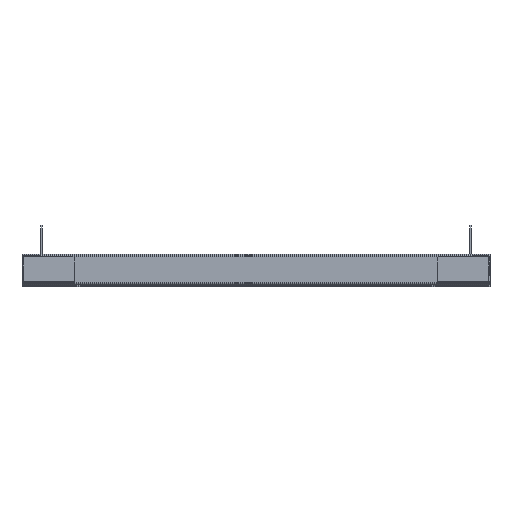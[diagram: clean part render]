
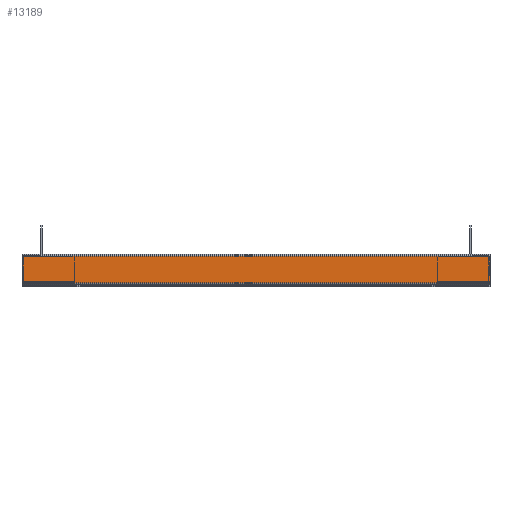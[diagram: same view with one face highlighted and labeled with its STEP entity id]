
A CAD part, top view. The second image highlights one B-rep face of the part: STEP entity #13189.
In plain terms, the highlighted planar face has unit normal (0, 0, 1) as drawn and (0, 1, 0) by its records, which use the part's own axes.
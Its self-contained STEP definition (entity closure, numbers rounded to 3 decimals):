
#969 = CARTESIAN_POINT ( 'NONE',  ( -16.65, 50., 290. ) ) ;
#1835 = DIRECTION ( 'NONE',  ( 0., 0., -1. ) ) ;
#2063 = LINE ( 'NONE', #15201, #2915 ) ;
#2357 = EDGE_CURVE ( 'NONE', #8708, #4841, #6027, .T. ) ;
#2416 = CARTESIAN_POINT ( 'NONE',  ( 16.65, 50., -290. ) ) ;
#2454 = DIRECTION ( 'NONE',  ( 0., 0., 1. ) ) ;
#2460 = EDGE_CURVE ( 'NONE', #13437, #4841, #2717, .T. ) ;
#2717 = LINE ( 'NONE', #6380, #13814 ) ;
#2915 = VECTOR ( 'NONE', #3284, 1000. ) ;
#3284 = DIRECTION ( 'NONE',  ( -1., 0., 0. ) ) ;
#4453 = FACE_OUTER_BOUND ( 'NONE', #10231, .T. ) ;
#4622 = PLANE ( 'NONE',  #11309 ) ;
#4676 = VECTOR ( 'NONE', #14017, 1000. ) ;
#4727 = CARTESIAN_POINT ( 'NONE',  ( -19., 50., 290. ) ) ;
#4841 = VERTEX_POINT ( 'NONE', #969 ) ;
#6027 = LINE ( 'NONE', #4727, #12986 ) ;
#6129 = ORIENTED_EDGE ( 'NONE', *, *, #14489, .T. ) ;
#6380 = CARTESIAN_POINT ( 'NONE',  ( -16.65, 50., 290. ) ) ;
#6454 = CARTESIAN_POINT ( 'NONE',  ( 16.65, 50., 290. ) ) ;
#7677 = ORIENTED_EDGE ( 'NONE', *, *, #2357, .F. ) ;
#8661 = EDGE_CURVE ( 'NONE', #13754, #13437, #2063, .T. ) ;
#8708 = VERTEX_POINT ( 'NONE', #17117 ) ;
#9760 = CARTESIAN_POINT ( 'NONE',  ( -19., 50., 290. ) ) ;
#10231 = EDGE_LOOP ( 'NONE', ( #7677, #6129, #15943, #16576 ) ) ;
#10293 = DIRECTION ( 'NONE',  ( -1., 0., 0. ) ) ;
#11309 = AXIS2_PLACEMENT_3D ( 'NONE', #9760, #15070, #1835 ) ;
#12986 = VECTOR ( 'NONE', #10293, 1000. ) ;
#13189 = ADVANCED_FACE ( 'NONE', ( #4453 ), #4622, .F. ) ;
#13331 = CARTESIAN_POINT ( 'NONE',  ( -16.65, 50., -290. ) ) ;
#13437 = VERTEX_POINT ( 'NONE', #13331 ) ;
#13754 = VERTEX_POINT ( 'NONE', #2416 ) ;
#13814 = VECTOR ( 'NONE', #2454, 1000. ) ;
#14017 = DIRECTION ( 'NONE',  ( 0., 0., -1. ) ) ;
#14489 = EDGE_CURVE ( 'NONE', #8708, #13754, #15502, .T. ) ;
#15070 = DIRECTION ( 'NONE',  ( 0., -1., 0. ) ) ;
#15201 = CARTESIAN_POINT ( 'NONE',  ( -19., 50., -290. ) ) ;
#15502 = LINE ( 'NONE', #6454, #4676 ) ;
#15943 = ORIENTED_EDGE ( 'NONE', *, *, #8661, .T. ) ;
#16576 = ORIENTED_EDGE ( 'NONE', *, *, #2460, .T. ) ;
#17117 = CARTESIAN_POINT ( 'NONE',  ( 16.65, 50., 290. ) ) ;
